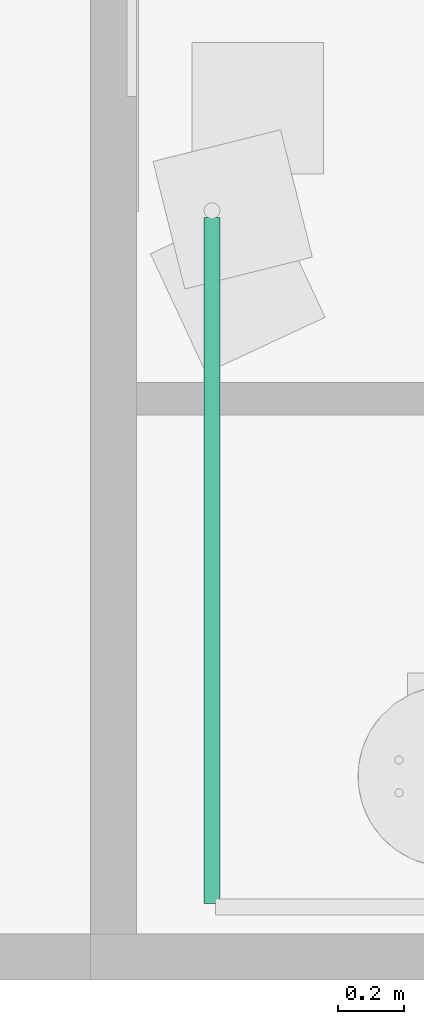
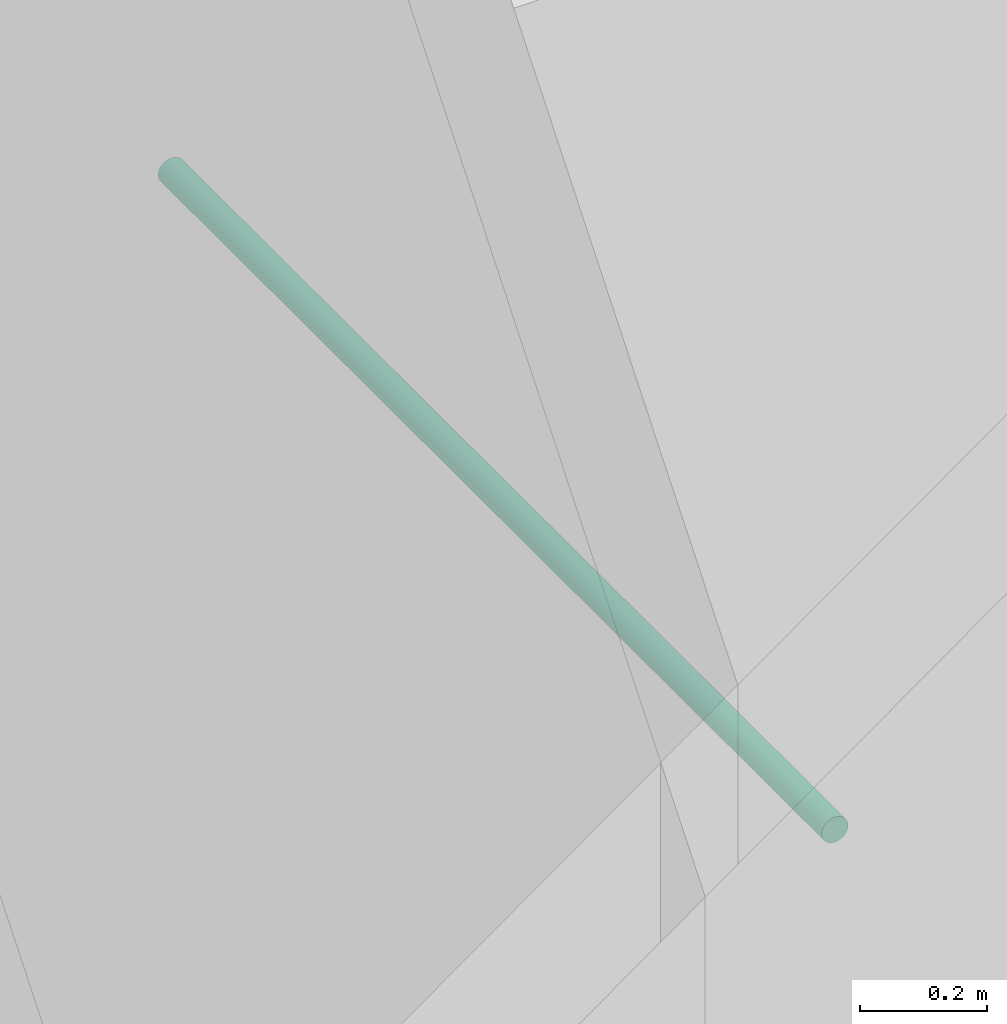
# One storey, part 13 of 69: 1 pipe segment.
"""IFC4 building model written with IfcOpenShell, lengths in centimetres."""

from ifc_helpers import new_model, entity, si_unit, converted_unit, derived_unit, direction, frame, origin, place, context, subcontext, project, spatial, arc, indexed_curve, outline, extrude, type_object, element, save


model = new_model("IFC4")

# Units and contexts
model_context = context("Model", 3, precision=0.001, world=origin(), true_north=direction((6.123233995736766e-17, 1.0)))
body_context = subcontext(model_context, "Body", "Model", "MODEL_VIEW")
ifc_project = project(units=[si_unit("LENGTHUNIT", "METRE", prefix="CENTI"), si_unit("AREAUNIT", "SQUARE_METRE"), si_unit("VOLUMEUNIT", "CUBIC_METRE"), derived_unit("THERMALTRANSMITTANCEUNIT", [(si_unit("MASSUNIT", "GRAM", prefix="KILO"), 1), (si_unit("THERMODYNAMICTEMPERATUREUNIT", "KELVIN"), -1), (si_unit("TIMEUNIT", "SECOND"), -3)]), converted_unit("PLANEANGLEUNIT", "DEGREE", entity("IfcPlaneAngleMeasure", 0.017453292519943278), si_unit("PLANEANGLEUNIT", "RADIAN"), dimensions=[0, 0, 0, 0, 0, 0, 0]), derived_unit("MASSDENSITYUNIT", [(si_unit("MASSUNIT", "GRAM", prefix="KILO"), 1), (si_unit("LENGTHUNIT", "METRE"), -3)]), derived_unit("VAPORPERMEABILITYUNIT", [(si_unit("LENGTHUNIT", "METRE"), -1), (si_unit("TIMEUNIT", "SECOND"), 1)]), derived_unit("USERDEFINED", [(si_unit("MASSUNIT", "GRAM", prefix="KILO"), 1), (si_unit("TIMEUNIT", "SECOND"), -3), (si_unit("LENGTHUNIT", "METRE"), 3), (si_unit("ELECTRICCURRENTUNIT", "AMPERE"), -2)]), derived_unit("SPECIFICHEATCAPACITYUNIT", [(si_unit("THERMODYNAMICTEMPERATUREUNIT", "KELVIN"), -1), (si_unit("LENGTHUNIT", "METRE"), 2), (si_unit("TIMEUNIT", "SECOND"), -2)]), derived_unit("THERMALCONDUCTANCEUNIT", [(si_unit("MASSUNIT", "GRAM", prefix="KILO"), 1), (si_unit("THERMODYNAMICTEMPERATUREUNIT", "KELVIN"), -1), (si_unit("TIMEUNIT", "SECOND"), -3), (si_unit("LENGTHUNIT", "METRE"), 1)]), si_unit("PRESSUREUNIT", "PASCAL"), derived_unit("MODULUSOFELASTICITYUNIT", [(si_unit("MASSUNIT", "GRAM", prefix="KILO"), 1), (si_unit("LENGTHUNIT", "METRE"), -1), (si_unit("TIMEUNIT", "SECOND"), -2)]), derived_unit("THERMALEXPANSIONCOEFFICIENTUNIT", [(si_unit("THERMODYNAMICTEMPERATUREUNIT", "KELVIN"), -1)])], contexts=[model_context])

# Site, building, storey
site_placement = place(None, origin())
site = spatial("IfcSite", under=ifc_project, at=site_placement, Name="Default", CompositionType="ELEMENT")
building_placement = place(site_placement, origin())
building = spatial("IfcBuilding", under=site, at=building_placement, Name="IDS Escape Game Building", CompositionType="ELEMENT")
storey_placement = place(building_placement, origin())
storey = spatial("IfcBuildingStorey", under=building, at=storey_placement, Name="00_Ground Floor", CompositionType="ELEMENT", Elevation=0.0)

# Pipe segment
pipe_segment_type = type_object("IfcPipeSegmentType", Name="Pipe Types:Piping Aluminum", PredefinedType="NOTDEFINED")
pipe_segment_placement = place(storey_placement, origin())
element("IfcPipeSegment", 1, at=pipe_segment_placement, inside=storey, type_object=pipe_segment_type, Name="Pipe Types:Piping Aluminum", ObjectType="Pipe Types:Piping Aluminum", PredefinedType="NOTDEFINED", context=body_context, shape_type="SweptSolid", body=[
    extrude(outline(indexed_curve([(2.4130000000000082, 0.0), (1.7062486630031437, 1.7062486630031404), (-3.383959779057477e-15, 2.412999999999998), (-1.7062486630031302, 1.7062486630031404), (-2.412999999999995, 2.7071678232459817e-14), (-1.7062486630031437, -1.7062486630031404), (-6.767919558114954e-15, -2.412999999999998), (1.706248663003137, -1.7062486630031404)], segments=[arc(1, 2, 3), arc(3, 4, 5), arc(5, 6, 7), arc(7, 8, 1)], self_intersect=False)), frame((30.046716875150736, 22.364827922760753, 242.0), z_axis=(0.0, 1.0, 0.0), x_axis=(1.0, 0.0, 0.0)), (0.0, 0.0, 1.0), 208.80000000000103),
])

save(model, "model.ifc")
